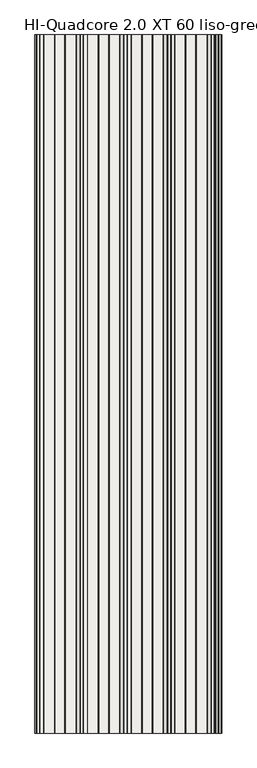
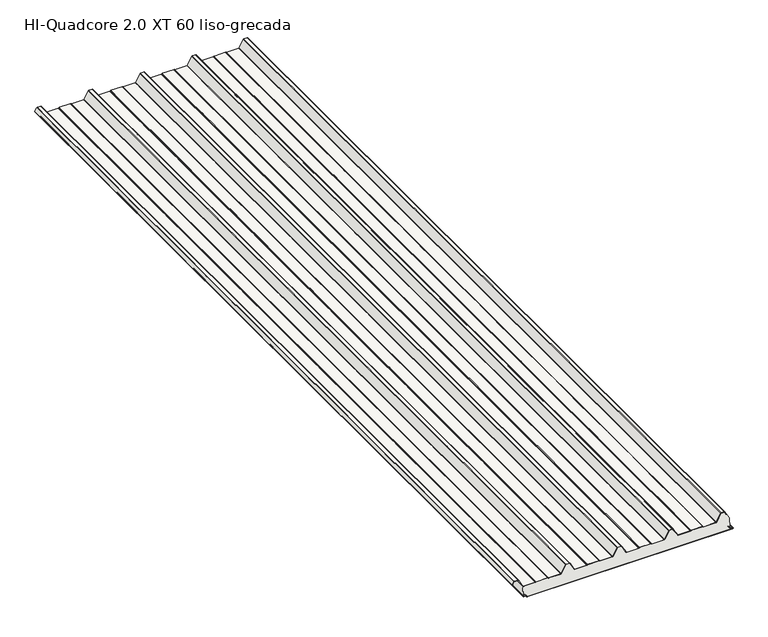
"""IFC4 building model written with IfcOpenShell, lengths in millimetres: slab geometry, Panel_HI_QuadCore 2.0 XT-XT DUAL_liso-grecada : HI-Quadcore 2.0 XT 60 liso-grecada."""

from ifc_helpers import new_model, si_unit, point, frame, frame_2d, origin, place, context, project, spatial, polyline, circle_curve, trimmed, segment, composite_curve, outline, extrude, source, transform, mapped, element, save
from ifc_brep_helpers import plane_surface, cylinder_surface, revolved_surface, advanced_brep


def hi_quadcore_2_0_xt_60_liso_grecada_b670beb6(model_context):
    return source(origin(), model_context, "Body", "SolidModel", [
        advanced_brep(
        [(-463.5686109, 0.0, 13.3795578), (-464.1543582, 0.0, 11.9654043), (-464.1543963, 0.0, 8.2995811), (-462.3003213, 0.0, 6.328543), (-451.8922768, 0.0, 5.5663871), (-450.0967368, 0.0, 3.5769209), (-450.0966924, 0.0, 1.9756011), (-448.096637, 0.0, -0.0243435), (547.9162803, 0.0, 0.003269), (549.9046779, 0.0, 2.0032908), (549.904653, 0.0, 2.9012893), (548.0077486, 0.0, 4.8985749), (536.1928118, 0.0, 5.7933732), (534.3438482, 0.0, 7.7876066), (534.3437386, 0.0, 11.7402379), (533.757913, 0.0, 13.1544352), (532.3436602, 0.0, 14.5686095), (531.7779748, 0.0, 14.0029241), (533.1922433, 0.0, 12.5887341), (533.5437386, 0.0, 11.7402157), (533.5438482, 0.0, 7.7875844), (536.1323972, 0.0, 4.9956577), (547.958132, 0.0, 4.1000416), (549.104653, 0.0, 2.9012672), (549.1046779, 0.0, 2.0032686), (547.9136554, 0.0, 0.8032689), (-448.0966592, 0.0, 0.7756565), (-449.2966924, 0.0, 1.9756233), (-449.2967368, 0.0, 3.5769431), (-451.8231384, 0.0, 6.3634663), (-462.2418956, 0.0, 7.1264067), (-463.3542572, 0.0, 8.3231689), (-463.3543582, 0.0, 11.965396), (-463.0029098, 0.0, 12.8138881), (-460.8967817, 0.0, 14.920133), (-461.4624671, 0.0, 15.4858184), (-463.5686109, 4000.0, 13.3795578), (-461.4624671, 4000.0, 15.4858184), (-460.8967817, 4000.0, 14.920133), (-463.0029098, 4000.0, 12.8138881), (-463.3543582, 4000.0, 11.965396), (-463.3543963, 4000.0, 8.2995728), (-462.2418956, 4000.0, 7.1264067), (-451.8231384, 4000.0, 6.3634663), (-449.2967368, 4000.0, 3.5769431), (-449.2966924, 4000.0, 1.9756233), (-448.0966592, 4000.0, 0.7756565), (547.9136554, 4000.0, 0.8032689), (549.1046779, 4000.0, 2.0032686), (549.104653, 4000.0, 2.9012672), (547.958132, 4000.0, 4.1000416), (536.1323972, 4000.0, 4.9956577), (533.5438482, 4000.0, 7.7875844), (533.5437386, 4000.0, 11.7402157), (533.1922433, 4000.0, 12.5887341), (531.7779748, 4000.0, 14.0029241), (532.3436602, 4000.0, 14.5686095), (533.757913, 4000.0, 13.1544352), (534.3437386, 4000.0, 11.7402379), (534.3438482, 4000.0, 7.7876066), (536.1928118, 4000.0, 5.7933732), (548.0077486, 4000.0, 4.8985749), (549.904653, 4000.0, 2.9012893), (549.9046779, 4000.0, 2.0032908), (547.9162803, 4000.0, 0.003269), (-448.096637, 4000.0, -0.0243435), (-450.0966924, 4000.0, 1.9756011), (-450.0967368, 4000.0, 3.5769209), (-451.8922768, 4000.0, 5.5663871), (-462.3003213, 4000.0, 6.328543), (-464.1542572, 4000.0, 8.3231467), (-464.1543582, 4000.0, 11.9654043)],
        [
            (0, 1, circle_curve(frame((-462.1543582, 0.0, 11.9653834), z_axis=(0.0, -1.0, 0.0), x_axis=(1.0, 0.0, 0.0)), 2.0)),
            (1, 2),
            (2, 3, circle_curve(frame((-462.1542572, 0.0, 8.3232022), z_axis=(0.0, -1.0, 0.0), x_axis=(1.0, 0.0, 0.0)), 2.0)),
            (3, 4),
            (4, 5, circle_curve(frame((-452.0967368, 0.0, 3.5768655), z_axis=(0.0, 1.0, 0.0), x_axis=(1.0, 0.0, 0.0)), 2.0)),
            (5, 6),
            (6, 7, circle_curve(frame((-448.0966924, 0.0, 1.9756565), z_axis=(0.0, -1.0, 0.0), x_axis=(1.0, 0.0, 0.0)), 2.0)),
            (7, 8),
            (8, 9, circle_curve(frame((547.9046779, 0.0, 2.0032353), z_axis=(0.0, -1.0, 0.0), x_axis=(1.0, 0.0, 0.0)), 2.0)),
            (9, 10),
            (10, 11, circle_curve(frame((547.904653, 0.0, 2.9012339), z_axis=(0.0, -1.0, 0.0), x_axis=(1.0, 0.0, 0.0)), 2.0)),
            (11, 12),
            (12, 13, circle_curve(frame((536.3438482, 0.0, 7.7876621), z_axis=(0.0, 1.0, 0.0), x_axis=(1.0, 0.0, 0.0)), 2.0)),
            (13, 14),
            (14, 15, circle_curve(frame((532.3437386, 0.0, 11.7401824), z_axis=(0.0, -1.0, 0.0), x_axis=(1.0, 0.0, 0.0)), 2.0)),
            (15, 16),
            (16, 17),
            (17, 18),
            (18, 19, circle_curve(frame((532.3437386, 0.0, 11.7401824), z_axis=(0.0, 1.0, 0.0), x_axis=(1.0, 0.0, 0.0)), 1.2)),
            (19, 20),
            (20, 21, circle_curve(frame((536.3438482, 0.0, 7.7876621), z_axis=(0.0, -1.0, 0.0), x_axis=(1.0, 0.0, 0.0)), 2.8)),
            (21, 22),
            (22, 23, circle_curve(frame((547.904653, 0.0, 2.9012339), z_axis=(0.0, 1.0, 0.0), x_axis=(1.0, 0.0, 0.0)), 1.2)),
            (23, 24),
            (24, 25, circle_curve(frame((547.9046779, 0.0, 2.0032353), z_axis=(0.0, 1.0, 0.0), x_axis=(1.0, 0.0, 0.0)), 1.2)),
            (25, 26),
            (26, 27, circle_curve(frame((-448.0966924, 0.0, 1.9756565), z_axis=(0.0, 1.0, 0.0), x_axis=(1.0, 0.0, 0.0)), 1.2)),
            (27, 28),
            (28, 29, circle_curve(frame((-452.0967368, 0.0, 3.5768655), z_axis=(0.0, -1.0, 0.0), x_axis=(1.0, 0.0, 0.0)), 2.8)),
            (29, 30),
            (30, 31, circle_curve(frame((-462.1542572, 0.0, 8.3232022), z_axis=(0.0, 1.0, 0.0), x_axis=(1.0, 0.0, 0.0)), 1.2)),
            (31, 32),
            (32, 33, circle_curve(frame((-462.1543582, 0.0, 11.9653834), z_axis=(0.0, 1.0, 0.0), x_axis=(1.0, 0.0, 0.0)), 1.2)),
            (33, 34),
            (34, 35),
            (35, 0),
            (36, 37),
            (37, 38),
            (38, 39),
            (39, 40, circle_curve(frame((-462.1543582, 4000.0, 11.9653834), z_axis=(0.0, -1.0, 0.0), x_axis=(1.0, 0.0, 0.0)), 1.2)),
            (40, 41),
            (41, 42, circle_curve(frame((-462.1542572, 4000.0, 8.3232022), z_axis=(0.0, -1.0, 0.0), x_axis=(1.0, 0.0, 0.0)), 1.2)),
            (42, 43),
            (43, 44, circle_curve(frame((-452.0967368, 4000.0, 3.5768655), z_axis=(0.0, 1.0, 0.0), x_axis=(1.0, 0.0, 0.0)), 2.8)),
            (44, 45),
            (45, 46, circle_curve(frame((-448.0966924, 4000.0, 1.9756565), z_axis=(0.0, -1.0, 0.0), x_axis=(1.0, 0.0, 0.0)), 1.2)),
            (46, 47),
            (47, 48, circle_curve(frame((547.9046779, 4000.0, 2.0032353), z_axis=(0.0, -1.0, 0.0), x_axis=(1.0, 0.0, 0.0)), 1.2)),
            (48, 49),
            (49, 50, circle_curve(frame((547.904653, 4000.0, 2.9012339), z_axis=(0.0, -1.0, 0.0), x_axis=(1.0, 0.0, 0.0)), 1.2)),
            (50, 51),
            (51, 52, circle_curve(frame((536.3438482, 4000.0, 7.7876621), z_axis=(0.0, 1.0, 0.0), x_axis=(1.0, 0.0, 0.0)), 2.8)),
            (52, 53),
            (53, 54, circle_curve(frame((532.3437386, 4000.0, 11.7401824), z_axis=(0.0, -1.0, 0.0), x_axis=(1.0, 0.0, 0.0)), 1.2)),
            (54, 55),
            (55, 56),
            (56, 57),
            (57, 58, circle_curve(frame((532.3437386, 4000.0, 11.7401824), z_axis=(0.0, 1.0, 0.0), x_axis=(1.0, 0.0, 0.0)), 2.0)),
            (58, 59),
            (59, 60, circle_curve(frame((536.3438482, 4000.0, 7.7876621), z_axis=(0.0, -1.0, 0.0), x_axis=(1.0, 0.0, 0.0)), 2.0)),
            (60, 61),
            (61, 62, circle_curve(frame((547.904653, 4000.0, 2.9012339), z_axis=(0.0, 1.0, 0.0), x_axis=(1.0, 0.0, 0.0)), 2.0)),
            (62, 63),
            (63, 64, circle_curve(frame((547.9046779, 4000.0, 2.0032353), z_axis=(0.0, 1.0, 0.0), x_axis=(1.0, 0.0, 0.0)), 2.0)),
            (64, 65),
            (65, 66, circle_curve(frame((-448.0966924, 4000.0, 1.9756565), z_axis=(0.0, 1.0, 0.0), x_axis=(1.0, 0.0, 0.0)), 2.0)),
            (66, 67),
            (67, 68, circle_curve(frame((-452.0967368, 4000.0, 3.5768655), z_axis=(0.0, -1.0, 0.0), x_axis=(1.0, 0.0, 0.0)), 2.0)),
            (68, 69),
            (69, 70, circle_curve(frame((-462.1542572, 4000.0, 8.3232022), z_axis=(0.0, 1.0, 0.0), x_axis=(1.0, 0.0, 0.0)), 2.0)),
            (70, 71),
            (71, 36, circle_curve(frame((-462.1543582, 4000.0, 11.9653834), z_axis=(0.0, 1.0, 0.0), x_axis=(1.0, 0.0, 0.0)), 2.0)),
            (0, 36),
            (71, 1),
            (70, 2),
            (69, 3),
            (68, 4),
            (67, 5),
            (66, 6),
            (65, 7),
            (64, 8),
            (63, 9),
            (62, 10),
            (61, 11),
            (60, 12),
            (59, 13),
            (58, 14),
            (57, 15),
            (56, 16),
            (55, 17),
            (54, 18),
            (53, 19),
            (52, 20),
            (51, 21),
            (50, 22),
            (49, 23),
            (48, 24),
            (47, 25),
            (46, 26),
            (45, 27),
            (44, 28),
            (43, 29),
            (42, 30),
            (41, 31),
            (40, 32),
            (39, 33),
            (38, 34),
            (37, 35),
        ],
        [
            plane_surface(frame((-460.1543582, 0.0, 11.9653834), z_axis=(0.0, -1.0, 0.0), x_axis=(0.0, 0.0, 1.0))),
            plane_surface(frame((-460.1543582, 4000.0, 11.9653834), z_axis=(0.0, 1.0, 0.0), x_axis=(0.0, 0.0, -1.0))),
            cylinder_surface(frame((-462.1543582, 4000.0, 11.9653834), z_axis=(0.0, -1.0, 0.0), x_axis=(1.0, 0.0, 0.0)), 2.0),
            plane_surface(frame((-464.1543582, 0.0, 11.9654043), z_axis=(-0.9999999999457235, 0.0, 1.041887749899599e-05), x_axis=(0.0, 1.0, 0.0))),
            cylinder_surface(frame((-462.1542572, 4000.0, 8.3232022), z_axis=(0.0, -1.0, 0.0), x_axis=(1.0, 0.0, 0.0)), 2.0),
            plane_surface(frame((-462.3003213, 0.0, 6.328543), z_axis=(-0.07303203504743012, 0.0, -0.9973295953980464), x_axis=(0.0, 1.0, 0.0))),
            revolved_surface(polyline([(-450.0967368, 4000.0, 3.5768655), (-450.0967368, 0.0, 3.5768655)]), (-452.0967368, 4000.0, 3.5768655), (0.0, 1.0, 0.0)),
            plane_surface(frame((-450.0967368, 0.0, 3.5769209), z_axis=(-0.9999999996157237, 0.0, -2.7722781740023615e-05), x_axis=(0.0, 1.0, 0.0))),
            cylinder_surface(frame((-448.0966924, 4000.0, 1.9756565), z_axis=(0.0, -1.0, 0.0), x_axis=(1.0, 0.0, 0.0)), 2.0),
            plane_surface(frame((-448.096637, 0.0, -0.0243435), z_axis=(2.772298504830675e-05, 0.0, -0.9999999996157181), x_axis=(0.0, 1.0, 0.0))),
            cylinder_surface(frame((547.9046779, 4000.0, 2.0032353), z_axis=(0.0, -1.0, 0.0), x_axis=(1.0, 0.0, 0.0)), 2.0),
            plane_surface(frame((549.9046779, 0.0, 2.0032908), z_axis=(0.9999999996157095, 0.0, 2.7723295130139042e-05), x_axis=(0.0, 1.0, 0.0))),
            cylinder_surface(frame((547.904653, 4000.0, 2.9012339), z_axis=(0.0, -1.0, 0.0), x_axis=(1.0, 0.0, 0.0)), 2.0),
            plane_surface(frame((548.0077486, 0.0, 4.8985749), z_axis=(0.07551822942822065, 0.0, 0.9971444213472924), x_axis=(0.0, 1.0, 0.0))),
            revolved_surface(polyline([(538.3438482, 4000.0, 7.7876621), (538.3438482, 0.0, 7.7876621)]), (536.3438482, 4000.0, 7.7876621), (0.0, 1.0, 0.0)),
            plane_surface(frame((534.3438482, 0.0, 7.7876066), z_axis=(0.9999999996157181, 0.0, 2.7722984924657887e-05), x_axis=(0.0, 1.0, 0.0))),
            cylinder_surface(frame((532.3437386, 4000.0, 11.7401824), z_axis=(0.0, -1.0, 0.0), x_axis=(1.0, 0.0, 0.0)), 2.0),
            plane_surface(frame((533.757913, 0.0, 13.1544352), z_axis=(0.7070871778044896, 0.0, 0.7071263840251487), x_axis=(0.0, 1.0, 0.0))),
            plane_surface(frame((532.3436602, 0.0, 14.5686095), z_axis=(-0.7071067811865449, 0.0, 0.7071067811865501), x_axis=(0.0, 1.0, 0.0))),
            plane_surface(frame((531.7779748, 0.0, 14.0029241), z_axis=(-0.7070871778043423, 0.0, -0.707126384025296), x_axis=(0.0, 1.0, 0.0))),
            revolved_surface(polyline([(533.5437386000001, 4000.0, 11.7401824), (533.5437386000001, 0.0, 11.7401824)]), (532.3437386, 4000.0, 11.7401824), (0.0, 1.0, 0.0)),
            plane_surface(frame((533.5437386, 0.0, 11.7402157), z_axis=(-0.9999999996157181, 0.0, -2.7722985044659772e-05), x_axis=(0.0, 1.0, 0.0))),
            cylinder_surface(frame((536.3438482, 4000.0, 7.7876621), z_axis=(0.0, -1.0, 0.0), x_axis=(1.0, 0.0, 0.0)), 2.8),
            plane_surface(frame((536.1323972, 0.0, 4.9956577), z_axis=(-0.07551822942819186, 0.0, -0.9971444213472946), x_axis=(0.0, 1.0, 0.0))),
            revolved_surface(polyline([(549.1046530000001, 4000.0, 2.9012339), (549.1046530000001, 0.0, 2.9012339)]), (547.904653, 4000.0, 2.9012339), (0.0, 1.0, 0.0)),
            plane_surface(frame((549.104653, 0.0, 2.9012672), z_axis=(-0.9999999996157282, 0.0, -2.7722622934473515e-05), x_axis=(0.0, 1.0, 0.0))),
            revolved_surface(polyline([(549.1046779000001, 4000.0, 2.0032353), (549.1046779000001, 0.0, 2.0032353)]), (547.9046779, 4000.0, 2.0032353), (0.0, 1.0, 0.0)),
            plane_surface(frame((547.9136554, 0.0, 0.8032689), z_axis=(-2.7722985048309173e-05, 0.0, 0.9999999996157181), x_axis=(0.0, 1.0, 0.0))),
            revolved_surface(polyline([(-446.8966924, 4000.0, 1.9756565), (-446.8966924, 0.0, 1.9756565)]), (-448.0966924, 4000.0, 1.9756565), (0.0, 1.0, 0.0)),
            plane_surface(frame((-449.2966924, 0.0, 1.9756233), z_axis=(0.9999999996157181, 0.0, 2.7722983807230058e-05), x_axis=(0.0, 1.0, 0.0))),
            cylinder_surface(frame((-452.0967368, 4000.0, 3.5768655), z_axis=(0.0, -1.0, 0.0), x_axis=(1.0, 0.0, 0.0)), 2.8),
            plane_surface(frame((-451.8231384, 0.0, 6.3634663), z_axis=(0.0730320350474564, 0.0, 0.9973295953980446), x_axis=(0.0, 1.0, 0.0))),
            revolved_surface(polyline([(-460.95425720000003, 4000.0, 8.3232022), (-460.95425720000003, 0.0, 8.3232022)]), (-462.1542572, 4000.0, 8.3232022), (0.0, 1.0, 0.0)),
            plane_surface(frame((-463.3543963, 0.0, 8.2995728), z_axis=(0.9999999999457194, 0.0, -1.0419274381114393e-05), x_axis=(0.0, 1.0, 0.0))),
            revolved_surface(polyline([(-460.9543582, 4000.0, 11.9653834), (-460.9543582, 0.0, 11.9653834)]), (-462.1543582, 4000.0, 11.9653834), (0.0, 1.0, 0.0)),
            plane_surface(frame((-463.0029098, 0.0, 12.8138881), z_axis=(0.7071263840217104, 0.0, -0.7070871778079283), x_axis=(0.0, 1.0, 0.0))),
            plane_surface(frame((-460.8967817, 0.0, 14.920133), z_axis=(0.7071067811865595, 0.0, 0.7071067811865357), x_axis=(0.0, 1.0, 0.0))),
            plane_surface(frame((-461.4624671, 0.0, 15.4858184), z_axis=(-0.7071263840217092, 0.0, 0.7070871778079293), x_axis=(0.0, 1.0, 0.0))),
        ],
        [
            (0, [[1, 2, 3, 4, 5, 6, 7, 8, 9, 10, 11, 12, 13, 14, 15, 16, 17, 18, 19, 20, 21, 22, 23, 24, 25, 26, 27, 28, 29, 30, 31, 32, 33, 34, 35, 36]]),
            (1, [[37, 38, 39, 40, 41, 42, 43, 44, 45, 46, 47, 48, 49, 50, 51, 52, 53, 54, 55, 56, 57, 58, 59, 60, 61, 62, 63, 64, 65, 66, 67, 68, 69, 70, 71, 72]]),
            (2, [[-1, 73, -72, 74]]),
            (3, [[-2, -74, -71, 75]]),
            (4, [[-3, -75, -70, 76]]),
            (5, [[-4, -76, -69, 77]]),
            (6, [[-5, -77, -68, 78]]),
            (7, [[-6, -78, -67, 79]]),
            (8, [[-7, -79, -66, 80]]),
            (9, [[-8, -80, -65, 81]]),
            (10, [[-9, -81, -64, 82]]),
            (11, [[-10, -82, -63, 83]]),
            (12, [[-11, -83, -62, 84]]),
            (13, [[-12, -84, -61, 85]]),
            (14, [[-13, -85, -60, 86]]),
            (15, [[-14, -86, -59, 87]]),
            (16, [[-15, -87, -58, 88]]),
            (17, [[-16, -88, -57, 89]]),
            (18, [[-17, -89, -56, 90]]),
            (19, [[-18, -90, -55, 91]]),
            (20, [[-19, -91, -54, 92]]),
            (21, [[-20, -92, -53, 93]]),
            (22, [[-21, -93, -52, 94]]),
            (23, [[-22, -94, -51, 95]]),
            (24, [[-23, -95, -50, 96]]),
            (25, [[-24, -96, -49, 97]]),
            (26, [[-25, -97, -48, 98]]),
            (27, [[-26, -98, -47, 99]]),
            (28, [[-27, -99, -46, 100]]),
            (29, [[-28, -100, -45, 101]]),
            (30, [[-29, -101, -44, 102]]),
            (31, [[-30, -102, -43, 103]]),
            (32, [[-31, -103, -42, 104]]),
            (33, [[-32, -104, -41, 105]]),
            (34, [[-33, -105, -40, 106]]),
            (35, [[-34, -106, -39, 107]]),
            (36, [[-35, -107, -38, 108]]),
            (37, [[-36, -108, -37, -73]]),
        ],
    ),
        extrude(outline(composite_curve([segment(polyline([(98.1649405, -511.4858571), (83.6579587, -519.6460344)]), True, "CONTINUOUS"), segment(trimmed(circle_curve(frame_2d((83.0451321, -518.556565)), 1.25), [point((83.6579587, -519.6460344))], [point((82.689225, -517.3583037))], False, "CARTESIAN"), True, "CONTINUOUS"), segment(polyline([(82.689225, -517.3583037), (85.7359115, -516.562859), (85.9380053, -517.336912), (82.9074492, -518.1281453)]), True, "CONTINUOUS"), segment(trimmed(circle_curve(frame_2d((83.0451321, -518.556565)), 0.45), [point((82.9074492, -518.1281453))], [point((83.2657497, -518.948774))], True, "CARTESIAN"), True, "CONTINUOUS"), segment(polyline([(83.2657497, -518.948774), (97.7727315, -510.7885967)]), True, "CONTINUOUS"), segment(trimmed(circle_curve(frame_2d((96.4, -508.3481852)), 2.8), [point((97.7727315, -510.7885967))], [point((99.2, -508.3481852))], True, "CARTESIAN"), True, "CONTINUOUS"), segment(polyline([(99.2, -508.3481852), (99.2, -491.0688883)]), True, "CONTINUOUS"), segment(trimmed(circle_curve(frame_2d((96.4, -491.0688883)), 2.8), [point((99.2, -491.0688883))], [point((97.5457267, -488.5140281))], True, "CARTESIAN"), True, "CONTINUOUS"), segment(polyline([(97.5457267, -488.5140281), (61.2048889, -468.6947225)]), True, "CONTINUOUS"), segment(trimmed(circle_curve(frame_2d((63.0, -465.3454575)), 3.8), [point((61.2048889, -468.6947225))], [point((59.2, -465.3454575))], False, "CARTESIAN"), True, "CONTINUOUS"), segment(polyline([(59.2, -465.3454575), (59.2, -407.5510443)]), True, "CONTINUOUS"), segment(trimmed(circle_curve(frame_2d((63.0, -407.5510443)), 3.8), [point((59.2, -407.5510443))], [point((59.6973596, -405.671532))], False, "CARTESIAN"), True, "CONTINUOUS"), segment(polyline([(59.6973596, -405.671532), (60.912055, -403.5370944)]), True, "CONTINUOUS"), segment(trimmed(circle_curve(frame_2d((59.0, -402.4489557)), 2.2), [point((60.912055, -403.5370944))], [point((61.2, -402.4489557))], True, "CARTESIAN"), True, "CONTINUOUS"), segment(polyline([(61.2, -402.4489557), (61.2, -347.5510443)]), True, "CONTINUOUS"), segment(trimmed(circle_curve(frame_2d((59.0, -347.5510443)), 2.2), [point((61.2, -347.5510443))], [point((60.912055, -346.4629056))], True, "CARTESIAN"), True, "CONTINUOUS"), segment(polyline([(60.912055, -346.4629056), (59.6973596, -344.328468)]), True, "CONTINUOUS"), segment(trimmed(circle_curve(frame_2d((63.0, -342.4489557)), 3.8), [point((59.6973596, -344.328468))], [point((59.2, -342.4489557))], False, "CARTESIAN"), True, "CONTINUOUS"), segment(polyline([(59.2, -342.4489557), (59.2, -284.2545425)]), True, "CONTINUOUS"), segment(trimmed(circle_curve(frame_2d((63.0, -284.2545425)), 3.8), [point((59.2, -284.2545425))], [point((61.1370073, -280.9425554))], False, "CARTESIAN"), True, "CONTINUOUS"), segment(polyline([(61.1370073, -280.9425554), (98.0785747, -260.1629237)]), True, "CONTINUOUS"), segment(trimmed(circle_curve(frame_2d((97.0, -258.2454575)), 2.2), [point((98.0785747, -260.1629237))], [point((99.2, -258.2454575))], True, "CARTESIAN"), True, "CONTINUOUS"), segment(polyline([(99.2, -258.2454575), (99.2, -241.7545425)]), True, "CONTINUOUS"), segment(trimmed(circle_curve(frame_2d((97.0, -241.7545425)), 2.2), [point((99.2, -241.7545425))], [point((98.0785747, -239.8370763))], True, "CARTESIAN"), True, "CONTINUOUS"), segment(polyline([(98.0785747, -239.8370763), (61.1370073, -219.0574446)]), True, "CONTINUOUS"), segment(trimmed(circle_curve(frame_2d((63.0, -215.7454575)), 3.8), [point((61.1370073, -219.0574446))], [point((59.2, -215.7454575))], False, "CARTESIAN"), True, "CONTINUOUS"), segment(polyline([(59.2, -215.7454575), (59.2, -157.5510443)]), True, "CONTINUOUS"), segment(trimmed(circle_curve(frame_2d((63.0, -157.5510443)), 3.8), [point((59.2, -157.5510443))], [point((59.6973596, -155.671532))], False, "CARTESIAN"), True, "CONTINUOUS"), segment(polyline([(59.6973596, -155.671532), (60.912055, -153.5370944)]), True, "CONTINUOUS"), segment(trimmed(circle_curve(frame_2d((59.0, -152.4489557)), 2.2), [point((60.912055, -153.5370944))], [point((61.2, -152.4489557))], True, "CARTESIAN"), True, "CONTINUOUS"), segment(polyline([(61.2, -152.4489557), (61.2, -97.5510443)]), True, "CONTINUOUS"), segment(trimmed(circle_curve(frame_2d((59.0, -97.5510443)), 2.2), [point((61.2, -97.5510443))], [point((60.912055, -96.4629056))], True, "CARTESIAN"), True, "CONTINUOUS"), segment(polyline([(60.912055, -96.4629056), (59.6973596, -94.328468)]), True, "CONTINUOUS"), segment(trimmed(circle_curve(frame_2d((63.0, -92.4489557)), 3.8), [point((59.6973596, -94.328468))], [point((59.2, -92.4489557))], False, "CARTESIAN"), True, "CONTINUOUS"), segment(polyline([(59.2, -92.4489557), (59.2, -34.2545425)]), True, "CONTINUOUS"), segment(trimmed(circle_curve(frame_2d((63.0, -34.2545425)), 3.8), [point((59.2, -34.2545425))], [point((61.1370073, -30.9425554))], False, "CARTESIAN"), True, "CONTINUOUS"), segment(polyline([(61.1370073, -30.9425554), (98.0785747, -10.1629237)]), True, "CONTINUOUS"), segment(trimmed(circle_curve(frame_2d((97.0, -8.2454575)), 2.2), [point((98.0785747, -10.1629237))], [point((99.2, -8.2454575))], True, "CARTESIAN"), True, "CONTINUOUS"), segment(polyline([(99.2, -8.2454575), (99.2, 8.2454575)]), True, "CONTINUOUS"), segment(trimmed(circle_curve(frame_2d((97.0, 8.2454575)), 2.2), [point((99.2, 8.2454575))], [point((98.0785747, 10.1629237))], True, "CARTESIAN"), True, "CONTINUOUS"), segment(polyline([(98.0785747, 10.1629237), (61.1370073, 30.9425554)]), True, "CONTINUOUS"), segment(trimmed(circle_curve(frame_2d((63.0, 34.2545425)), 3.8), [point((61.1370073, 30.9425554))], [point((59.2, 34.2545425))], False, "CARTESIAN"), True, "CONTINUOUS"), segment(polyline([(59.2, 34.2545425), (59.2, 92.4489557)]), True, "CONTINUOUS"), segment(trimmed(circle_curve(frame_2d((63.0, 92.4489557)), 3.8), [point((59.2, 92.4489557))], [point((59.6973596, 94.328468))], False, "CARTESIAN"), True, "CONTINUOUS"), segment(polyline([(59.6973596, 94.328468), (60.912055, 96.4629056)]), True, "CONTINUOUS"), segment(trimmed(circle_curve(frame_2d((59.0, 97.5510443)), 2.2), [point((60.912055, 96.4629056))], [point((61.2, 97.5510443))], True, "CARTESIAN"), True, "CONTINUOUS"), segment(polyline([(61.2, 97.5510443), (61.2, 152.4489557)]), True, "CONTINUOUS"), segment(trimmed(circle_curve(frame_2d((59.0, 152.4489557)), 2.2), [point((61.2, 152.4489557))], [point((60.912055, 153.5370944))], True, "CARTESIAN"), True, "CONTINUOUS"), segment(polyline([(60.912055, 153.5370944), (59.6973596, 155.671532)]), True, "CONTINUOUS"), segment(trimmed(circle_curve(frame_2d((63.0, 157.5510443)), 3.8), [point((59.6973596, 155.671532))], [point((59.2, 157.5510443))], False, "CARTESIAN"), True, "CONTINUOUS"), segment(polyline([(59.2, 157.5510443), (59.2, 215.7454575)]), True, "CONTINUOUS"), segment(trimmed(circle_curve(frame_2d((63.0, 215.7454575)), 3.8), [point((59.2, 215.7454575))], [point((61.1370073, 219.0574446))], False, "CARTESIAN"), True, "CONTINUOUS"), segment(polyline([(61.1370073, 219.0574446), (98.0785747, 239.8370763)]), True, "CONTINUOUS"), segment(trimmed(circle_curve(frame_2d((97.0, 241.7545425)), 2.2), [point((98.0785747, 239.8370763))], [point((99.2, 241.7545425))], True, "CARTESIAN"), True, "CONTINUOUS"), segment(polyline([(99.2, 241.7545425), (99.2, 258.2454575)]), True, "CONTINUOUS"), segment(trimmed(circle_curve(frame_2d((97.0, 258.2454575)), 2.2), [point((99.2, 258.2454575))], [point((98.0785747, 260.1629237))], True, "CARTESIAN"), True, "CONTINUOUS"), segment(polyline([(98.0785747, 260.1629237), (61.1370073, 280.9425554)]), True, "CONTINUOUS"), segment(trimmed(circle_curve(frame_2d((63.0, 284.2545425)), 3.8), [point((61.1370073, 280.9425554))], [point((59.2, 284.2545425))], False, "CARTESIAN"), True, "CONTINUOUS"), segment(polyline([(59.2, 284.2545425), (59.2, 342.4489557)]), True, "CONTINUOUS"), segment(trimmed(circle_curve(frame_2d((63.0, 342.4489557)), 3.8), [point((59.2, 342.4489557))], [point((59.6973596, 344.328468))], False, "CARTESIAN"), True, "CONTINUOUS"), segment(polyline([(59.6973596, 344.328468), (60.912055, 346.4629056)]), True, "CONTINUOUS"), segment(trimmed(circle_curve(frame_2d((59.0, 347.5510443)), 2.2), [point((60.912055, 346.4629056))], [point((61.2, 347.5510443))], True, "CARTESIAN"), True, "CONTINUOUS"), segment(polyline([(61.2, 347.5510443), (61.2, 402.4489557)]), True, "CONTINUOUS"), segment(trimmed(circle_curve(frame_2d((59.0, 402.4489557)), 2.2), [point((61.2, 402.4489557))], [point((60.912055, 403.5370944))], True, "CARTESIAN"), True, "CONTINUOUS"), segment(polyline([(60.912055, 403.5370944), (59.6973596, 405.671532)]), True, "CONTINUOUS"), segment(trimmed(circle_curve(frame_2d((63.0, 407.5510443)), 3.8), [point((59.6973596, 405.671532))], [point((59.2, 407.5510443))], False, "CARTESIAN"), True, "CONTINUOUS"), segment(polyline([(59.2, 407.5510443), (59.2, 466.4208923)]), True, "CONTINUOUS"), segment(trimmed(circle_curve(frame_2d((63.0, 466.4208923)), 3.8), [point((59.2, 466.4208923))], [point((61.1583504, 469.7447946))], False, "CARTESIAN"), True, "CONTINUOUS"), segment(polyline([(61.1583504, 469.7447946), (98.0662182, 490.1940602)]), True, "CONTINUOUS"), segment(trimmed(circle_curve(frame_2d((97.0, 492.1184247)), 2.2), [point((98.0662182, 490.1940602))], [point((99.2, 492.1184247))], True, "CARTESIAN"), True, "CONTINUOUS"), segment(polyline([(99.2, 492.1184247), (99.2, 507.4945491)]), True, "CONTINUOUS"), segment(trimmed(circle_curve(frame_2d((97.0, 507.4945491)), 2.2), [point((99.2, 507.4945491))], [point((98.0785747, 509.4120152))], True, "CARTESIAN"), True, "CONTINUOUS"), segment(polyline([(98.0785747, 509.4120152), (87.5275176, 515.3469849)]), True, "CONTINUOUS"), segment(trimmed(circle_curve(frame_2d((86.9392041, 514.3010942)), 1.2), [point((87.5275176, 515.3469849))], [point((86.3392623, 515.3403583))], True, "CARTESIAN"), True, "CONTINUOUS"), segment(polyline([(86.3392623, 515.3403583), (84.7281681, 514.4103128), (84.3282068, 515.1031555), (85.939301, 516.033201)]), True, "CONTINUOUS"), segment(trimmed(circle_curve(frame_2d((86.9392041, 514.3010942)), 2.0), [point((85.939301, 516.033201))], [point((87.9197266, 516.0442453))], False, "CARTESIAN"), True, "CONTINUOUS"), segment(polyline([(87.9197266, 516.0442453), (98.4707837, 510.1092757)]), True, "CONTINUOUS"), segment(trimmed(circle_curve(frame_2d((97.0, 507.4945491)), 3.0), [point((98.4707837, 510.1092757))], [point((100.0, 507.4945491))], False, "CARTESIAN"), True, "CONTINUOUS"), segment(polyline([(100.0, 507.4945491), (100.0, 492.1184247)]), True, "CONTINUOUS"), segment(trimmed(circle_curve(frame_2d((97.0, 492.1184247)), 3.0), [point((100.0, 492.1184247))], [point((98.4539339, 489.4942913))], False, "CARTESIAN"), True, "CONTINUOUS"), segment(polyline([(98.4539339, 489.4942913), (61.5460661, 469.0450257)]), True, "CONTINUOUS"), segment(trimmed(circle_curve(frame_2d((63.0, 466.4208923)), 3.0), [point((61.5460661, 469.0450257))], [point((60.0, 466.4208923))], True, "CARTESIAN"), True, "CONTINUOUS"), segment(polyline([(60.0, 466.4208923), (60.0, 407.5510443)]), True, "CONTINUOUS"), segment(trimmed(circle_curve(frame_2d((63.0, 407.5510443)), 3.0), [point((60.0, 407.5510443))], [point((60.3926523, 406.0672188))], True, "CARTESIAN"), True, "CONTINUOUS"), segment(polyline([(60.3926523, 406.0672188), (61.6073477, 403.9327812)]), True, "CONTINUOUS"), segment(trimmed(circle_curve(frame_2d((59.0, 402.4489557)), 3.0), [point((61.6073477, 403.9327812))], [point((62.0, 402.4489557))], False, "CARTESIAN"), True, "CONTINUOUS"), segment(polyline([(62.0, 402.4489557), (62.0, 347.5510443)]), True, "CONTINUOUS"), segment(trimmed(circle_curve(frame_2d((59.0, 347.5510443)), 3.0), [point((62.0, 347.5510443))], [point((61.6073477, 346.0672188))], False, "CARTESIAN"), True, "CONTINUOUS"), segment(polyline([(61.6073477, 346.0672188), (60.3926523, 343.9327812)]), True, "CONTINUOUS"), segment(trimmed(circle_curve(frame_2d((63.0, 342.4489557)), 3.0), [point((60.3926523, 343.9327812))], [point((60.0, 342.4489557))], True, "CARTESIAN"), True, "CONTINUOUS"), segment(polyline([(60.0, 342.4489557), (60.0, 284.2545425)]), True, "CONTINUOUS"), segment(trimmed(circle_curve(frame_2d((63.0, 284.2545425)), 3.0), [point((60.0, 284.2545425))], [point((61.5292163, 281.6398158))], True, "CARTESIAN"), True, "CONTINUOUS"), segment(polyline([(61.5292163, 281.6398158), (98.4707837, 260.8601842)]), True, "CONTINUOUS"), segment(trimmed(circle_curve(frame_2d((97.0, 258.2454575)), 3.0), [point((98.4707837, 260.8601842))], [point((100.0, 258.2454575))], False, "CARTESIAN"), True, "CONTINUOUS"), segment(polyline([(100.0, 258.2454575), (100.0, 241.7545425)]), True, "CONTINUOUS"), segment(trimmed(circle_curve(frame_2d((97.0, 241.7545425)), 3.0), [point((100.0, 241.7545425))], [point((98.4707837, 239.1398158))], False, "CARTESIAN"), True, "CONTINUOUS"), segment(polyline([(98.4707837, 239.1398158), (61.5292163, 218.3601842)]), True, "CONTINUOUS"), segment(trimmed(circle_curve(frame_2d((63.0, 215.7454575)), 3.0), [point((61.5292163, 218.3601842))], [point((60.0, 215.7454575))], True, "CARTESIAN"), True, "CONTINUOUS"), segment(polyline([(60.0, 215.7454575), (60.0, 157.5510443)]), True, "CONTINUOUS"), segment(trimmed(circle_curve(frame_2d((63.0, 157.5510443)), 3.0), [point((60.0, 157.5510443))], [point((60.3926523, 156.0672188))], True, "CARTESIAN"), True, "CONTINUOUS"), segment(polyline([(60.3926523, 156.0672188), (61.6073477, 153.9327812)]), True, "CONTINUOUS"), segment(trimmed(circle_curve(frame_2d((59.0, 152.4489557)), 3.0), [point((61.6073477, 153.9327812))], [point((62.0, 152.4489557))], False, "CARTESIAN"), True, "CONTINUOUS"), segment(polyline([(62.0, 152.4489557), (62.0, 97.5510443)]), True, "CONTINUOUS"), segment(trimmed(circle_curve(frame_2d((59.0, 97.5510443)), 3.0), [point((62.0, 97.5510443))], [point((61.6073477, 96.0672188))], False, "CARTESIAN"), True, "CONTINUOUS"), segment(polyline([(61.6073477, 96.0672188), (60.3926523, 93.9327812)]), True, "CONTINUOUS"), segment(trimmed(circle_curve(frame_2d((63.0, 92.4489557)), 3.0), [point((60.3926523, 93.9327812))], [point((60.0, 92.4489557))], True, "CARTESIAN"), True, "CONTINUOUS"), segment(polyline([(60.0, 92.4489557), (60.0, 34.2545425)]), True, "CONTINUOUS"), segment(trimmed(circle_curve(frame_2d((63.0, 34.2545425)), 3.0), [point((60.0, 34.2545425))], [point((61.5292163, 31.6398158))], True, "CARTESIAN"), True, "CONTINUOUS"), segment(polyline([(61.5292163, 31.6398158), (98.4707837, 10.8601842)]), True, "CONTINUOUS"), segment(trimmed(circle_curve(frame_2d((97.0, 8.2454575)), 3.0), [point((98.4707837, 10.8601842))], [point((100.0, 8.2454575))], False, "CARTESIAN"), True, "CONTINUOUS"), segment(polyline([(100.0, 8.2454575), (100.0, -8.2454575)]), True, "CONTINUOUS"), segment(trimmed(circle_curve(frame_2d((97.0, -8.2454575)), 3.0), [point((100.0, -8.2454575))], [point((98.4707837, -10.8601842))], False, "CARTESIAN"), True, "CONTINUOUS"), segment(polyline([(98.4707837, -10.8601842), (61.5292163, -31.6398158)]), True, "CONTINUOUS"), segment(trimmed(circle_curve(frame_2d((63.0, -34.2545425)), 3.0), [point((61.5292163, -31.6398158))], [point((60.0, -34.2545425))], True, "CARTESIAN"), True, "CONTINUOUS"), segment(polyline([(60.0, -34.2545425), (60.0, -92.4489557)]), True, "CONTINUOUS"), segment(trimmed(circle_curve(frame_2d((63.0, -92.4489557)), 3.0), [point((60.0, -92.4489557))], [point((60.3926523, -93.9327812))], True, "CARTESIAN"), True, "CONTINUOUS"), segment(polyline([(60.3926523, -93.9327812), (61.6073477, -96.0672188)]), True, "CONTINUOUS"), segment(trimmed(circle_curve(frame_2d((59.0, -97.5510443)), 3.0), [point((61.6073477, -96.0672188))], [point((62.0, -97.5510443))], False, "CARTESIAN"), True, "CONTINUOUS"), segment(polyline([(62.0, -97.5510443), (62.0, -152.4489557)]), True, "CONTINUOUS"), segment(trimmed(circle_curve(frame_2d((59.0, -152.4489557)), 3.0), [point((62.0, -152.4489557))], [point((61.6073477, -153.9327812))], False, "CARTESIAN"), True, "CONTINUOUS"), segment(polyline([(61.6073477, -153.9327812), (60.3926523, -156.0672188)]), True, "CONTINUOUS"), segment(trimmed(circle_curve(frame_2d((63.0, -157.5510443)), 3.0), [point((60.3926523, -156.0672188))], [point((60.0, -157.5510443))], True, "CARTESIAN"), True, "CONTINUOUS"), segment(polyline([(60.0, -157.5510443), (60.0, -215.7454575)]), True, "CONTINUOUS"), segment(trimmed(circle_curve(frame_2d((63.0, -215.7454575)), 3.0), [point((60.0, -215.7454575))], [point((61.5292163, -218.3601842))], True, "CARTESIAN"), True, "CONTINUOUS"), segment(polyline([(61.5292163, -218.3601842), (98.4707837, -239.1398158)]), True, "CONTINUOUS"), segment(trimmed(circle_curve(frame_2d((97.0, -241.7545425)), 3.0), [point((98.4707837, -239.1398158))], [point((100.0, -241.7545425))], False, "CARTESIAN"), True, "CONTINUOUS"), segment(polyline([(100.0, -241.7545425), (100.0, -258.2454575)]), True, "CONTINUOUS"), segment(trimmed(circle_curve(frame_2d((97.0, -258.2454575)), 3.0), [point((100.0, -258.2454575))], [point((98.4707837, -260.8601842))], False, "CARTESIAN"), True, "CONTINUOUS"), segment(polyline([(98.4707837, -260.8601842), (61.5292163, -281.6398158)]), True, "CONTINUOUS"), segment(trimmed(circle_curve(frame_2d((63.0, -284.2545425)), 3.0), [point((61.5292163, -281.6398158))], [point((60.0, -284.2545425))], True, "CARTESIAN"), True, "CONTINUOUS"), segment(polyline([(60.0, -284.2545425), (60.0, -342.4489557)]), True, "CONTINUOUS"), segment(trimmed(circle_curve(frame_2d((63.0, -342.4489557)), 3.0), [point((60.0, -342.4489557))], [point((60.3926523, -343.9327812))], True, "CARTESIAN"), True, "CONTINUOUS"), segment(polyline([(60.3926523, -343.9327812), (61.6073477, -346.0672188)]), True, "CONTINUOUS"), segment(trimmed(circle_curve(frame_2d((59.0, -347.5510443)), 3.0), [point((61.6073477, -346.0672188))], [point((62.0, -347.5510443))], False, "CARTESIAN"), True, "CONTINUOUS"), segment(polyline([(62.0, -347.5510443), (62.0, -402.4489557)]), True, "CONTINUOUS"), segment(trimmed(circle_curve(frame_2d((59.0, -402.4489557)), 3.0), [point((62.0, -402.4489557))], [point((61.6073477, -403.9327812))], False, "CARTESIAN"), True, "CONTINUOUS"), segment(polyline([(61.6073477, -403.9327812), (60.3926523, -406.0672188)]), True, "CONTINUOUS"), segment(trimmed(circle_curve(frame_2d((63.0, -407.5510443)), 3.0), [point((60.3926523, -406.0672188))], [point((60.0, -407.5510443))], True, "CARTESIAN"), True, "CONTINUOUS"), segment(polyline([(60.0, -407.5510443), (60.0, -465.3454575)]), True, "CONTINUOUS"), segment(trimmed(circle_curve(frame_2d((63.0, -465.3454575)), 3.0), [point((60.0, -465.3454575))], [point((61.5852209, -467.9909065))], True, "CARTESIAN"), True, "CONTINUOUS"), segment(polyline([(61.5852209, -467.9909065), (97.9031732, -487.7977309)]), True, "CONTINUOUS"), segment(trimmed(circle_curve(frame_2d((96.4, -491.0688883)), 3.6), [point((97.9031732, -487.7977309))], [point((100.0, -491.0688883))], False, "CARTESIAN"), True, "CONTINUOUS"), segment(polyline([(100.0, -491.0688883), (100.0, -508.3481852)]), True, "CONTINUOUS"), segment(trimmed(circle_curve(frame_2d((96.4, -508.3481852)), 3.6), [point((100.0, -508.3481852))], [point((98.1649405, -511.4858571))], False, "CARTESIAN"), True, "CONTINUOUS")], self_intersect=False)), frame((0.0, 0.0, 0.0), z_axis=(0.0, 1.0, 0.0), x_axis=(0.0, 0.0, 1.0)), (0.0, 0.0, 1.0), 4000.0),
        extrude(outline(composite_curve([segment(polyline([(61.2667387, 531.036551), (87.9197266, 516.0442453)]), True, "CONTINUOUS"), segment(trimmed(circle_curve(frame_2d((86.9392041, 514.3010942)), 2.0), [point((87.9197266, 516.0442453))], [point((85.939301, 516.033201))], True, "CARTESIAN"), True, "CONTINUOUS"), segment(polyline([(85.939301, 516.033201), (84.3282068, 515.1031555), (84.7281681, 514.4103128), (86.3392623, 515.3403583)]), True, "CONTINUOUS"), segment(trimmed(circle_curve(frame_2d((86.9392041, 514.3010942)), 1.2), [point((86.3392623, 515.3403583))], [point((87.5275176, 515.3469849))], False, "CARTESIAN"), True, "CONTINUOUS"), segment(polyline([(87.5275176, 515.3469849), (98.0785747, 509.4120152)]), True, "CONTINUOUS"), segment(trimmed(circle_curve(frame_2d((97.0, 507.4945491)), 2.2), [point((98.0785747, 509.4120152))], [point((99.2, 507.4945491))], False, "CARTESIAN"), True, "CONTINUOUS"), segment(polyline([(99.2, 507.4945491), (99.2, 492.1184247)]), True, "CONTINUOUS"), segment(trimmed(circle_curve(frame_2d((97.0, 492.1184247)), 2.2), [point((99.2, 492.1184247))], [point((98.0662182, 490.1940602))], False, "CARTESIAN"), True, "CONTINUOUS"), segment(polyline([(98.0662182, 490.1940602), (61.1583504, 469.7447946)]), True, "CONTINUOUS"), segment(trimmed(circle_curve(frame_2d((63.0, 466.4208923)), 3.8), [point((61.1583504, 469.7447946))], [point((59.2, 466.4208923))], True, "CARTESIAN"), True, "CONTINUOUS"), segment(polyline([(59.2, 466.4208923), (59.2, 407.5510443)]), True, "CONTINUOUS"), segment(trimmed(circle_curve(frame_2d((63.0, 407.5510443)), 3.8), [point((59.2, 407.5510443))], [point((59.6973596, 405.671532))], True, "CARTESIAN"), True, "CONTINUOUS"), segment(polyline([(59.6973596, 405.671532), (60.912055, 403.5370944)]), True, "CONTINUOUS"), segment(trimmed(circle_curve(frame_2d((59.0, 402.4489557)), 2.2), [point((60.912055, 403.5370944))], [point((61.2, 402.4489557))], False, "CARTESIAN"), True, "CONTINUOUS"), segment(polyline([(61.2, 402.4489557), (61.2, 347.5510443)]), True, "CONTINUOUS"), segment(trimmed(circle_curve(frame_2d((59.0, 347.5510443)), 2.2), [point((61.2, 347.5510443))], [point((60.912055, 346.4629056))], False, "CARTESIAN"), True, "CONTINUOUS"), segment(polyline([(60.912055, 346.4629056), (59.6973596, 344.328468)]), True, "CONTINUOUS"), segment(trimmed(circle_curve(frame_2d((63.0, 342.4489557)), 3.8), [point((59.6973596, 344.328468))], [point((59.2, 342.4489557))], True, "CARTESIAN"), True, "CONTINUOUS"), segment(polyline([(59.2, 342.4489557), (59.2, 284.2545425)]), True, "CONTINUOUS"), segment(trimmed(circle_curve(frame_2d((63.0, 284.2545425)), 3.8), [point((59.2, 284.2545425))], [point((61.1370073, 280.9425554))], True, "CARTESIAN"), True, "CONTINUOUS"), segment(polyline([(61.1370073, 280.9425554), (98.0785747, 260.1629237)]), True, "CONTINUOUS"), segment(trimmed(circle_curve(frame_2d((97.0, 258.2454575)), 2.2), [point((98.0785747, 260.1629237))], [point((99.2, 258.2454575))], False, "CARTESIAN"), True, "CONTINUOUS"), segment(polyline([(99.2, 258.2454575), (99.2, 241.7545425)]), True, "CONTINUOUS"), segment(trimmed(circle_curve(frame_2d((97.0, 241.7545425)), 2.2), [point((99.2, 241.7545425))], [point((98.0785747, 239.8370763))], False, "CARTESIAN"), True, "CONTINUOUS"), segment(polyline([(98.0785747, 239.8370763), (61.1370073, 219.0574446)]), True, "CONTINUOUS"), segment(trimmed(circle_curve(frame_2d((63.0, 215.7454575)), 3.8), [point((61.1370073, 219.0574446))], [point((59.2, 215.7454575))], True, "CARTESIAN"), True, "CONTINUOUS"), segment(polyline([(59.2, 215.7454575), (59.2, 157.5510443)]), True, "CONTINUOUS"), segment(trimmed(circle_curve(frame_2d((63.0, 157.5510443)), 3.8), [point((59.2, 157.5510443))], [point((59.6973596, 155.671532))], True, "CARTESIAN"), True, "CONTINUOUS"), segment(polyline([(59.6973596, 155.671532), (60.912055, 153.5370944)]), True, "CONTINUOUS"), segment(trimmed(circle_curve(frame_2d((59.0, 152.4489557)), 2.2), [point((60.912055, 153.5370944))], [point((61.2, 152.4489557))], False, "CARTESIAN"), True, "CONTINUOUS"), segment(polyline([(61.2, 152.4489557), (61.2, 97.5510443)]), True, "CONTINUOUS"), segment(trimmed(circle_curve(frame_2d((59.0, 97.5510443)), 2.2), [point((61.2, 97.5510443))], [point((60.912055, 96.4629056))], False, "CARTESIAN"), True, "CONTINUOUS"), segment(polyline([(60.912055, 96.4629056), (59.6973596, 94.328468)]), True, "CONTINUOUS"), segment(trimmed(circle_curve(frame_2d((63.0, 92.4489557)), 3.8), [point((59.6973596, 94.328468))], [point((59.2, 92.4489557))], True, "CARTESIAN"), True, "CONTINUOUS"), segment(polyline([(59.2, 92.4489557), (59.2, 34.2545425)]), True, "CONTINUOUS"), segment(trimmed(circle_curve(frame_2d((63.0, 34.2545425)), 3.8), [point((59.2, 34.2545425))], [point((61.1370073, 30.9425554))], True, "CARTESIAN"), True, "CONTINUOUS"), segment(polyline([(61.1370073, 30.9425554), (98.0785747, 10.1629237)]), True, "CONTINUOUS"), segment(trimmed(circle_curve(frame_2d((97.0, 8.2454575)), 2.2), [point((98.0785747, 10.1629237))], [point((99.2, 8.2454575))], False, "CARTESIAN"), True, "CONTINUOUS"), segment(polyline([(99.2, 8.2454575), (99.2, -8.2454575)]), True, "CONTINUOUS"), segment(trimmed(circle_curve(frame_2d((97.0, -8.2454575)), 2.2), [point((99.2, -8.2454575))], [point((98.0785747, -10.1629237))], False, "CARTESIAN"), True, "CONTINUOUS"), segment(polyline([(98.0785747, -10.1629237), (61.1370073, -30.9425554)]), True, "CONTINUOUS"), segment(trimmed(circle_curve(frame_2d((63.0, -34.2545425)), 3.8), [point((61.1370073, -30.9425554))], [point((59.2, -34.2545425))], True, "CARTESIAN"), True, "CONTINUOUS"), segment(polyline([(59.2, -34.2545425), (59.2, -92.4489557)]), True, "CONTINUOUS"), segment(trimmed(circle_curve(frame_2d((63.0, -92.4489557)), 3.8), [point((59.2, -92.4489557))], [point((59.6973596, -94.328468))], True, "CARTESIAN"), True, "CONTINUOUS"), segment(polyline([(59.6973596, -94.328468), (60.912055, -96.4629056)]), True, "CONTINUOUS"), segment(trimmed(circle_curve(frame_2d((59.0, -97.5510443)), 2.2), [point((60.912055, -96.4629056))], [point((61.2, -97.5510443))], False, "CARTESIAN"), True, "CONTINUOUS"), segment(polyline([(61.2, -97.5510443), (61.2, -152.4489557)]), True, "CONTINUOUS"), segment(trimmed(circle_curve(frame_2d((59.0, -152.4489557)), 2.2), [point((61.2, -152.4489557))], [point((60.912055, -153.5370944))], False, "CARTESIAN"), True, "CONTINUOUS"), segment(polyline([(60.912055, -153.5370944), (59.6973596, -155.671532)]), True, "CONTINUOUS"), segment(trimmed(circle_curve(frame_2d((63.0, -157.5510443)), 3.8), [point((59.6973596, -155.671532))], [point((59.2, -157.5510443))], True, "CARTESIAN"), True, "CONTINUOUS"), segment(polyline([(59.2, -157.5510443), (59.2, -215.7454575)]), True, "CONTINUOUS"), segment(trimmed(circle_curve(frame_2d((63.0, -215.7454575)), 3.8), [point((59.2, -215.7454575))], [point((61.1370073, -219.0574446))], True, "CARTESIAN"), True, "CONTINUOUS"), segment(polyline([(61.1370073, -219.0574446), (98.0785747, -239.8370763)]), True, "CONTINUOUS"), segment(trimmed(circle_curve(frame_2d((97.0, -241.7545425)), 2.2), [point((98.0785747, -239.8370763))], [point((99.2, -241.7545425))], False, "CARTESIAN"), True, "CONTINUOUS"), segment(polyline([(99.2, -241.7545425), (99.2, -258.2454575)]), True, "CONTINUOUS"), segment(trimmed(circle_curve(frame_2d((97.0, -258.2454575)), 2.2), [point((99.2, -258.2454575))], [point((98.0785747, -260.1629237))], False, "CARTESIAN"), True, "CONTINUOUS"), segment(polyline([(98.0785747, -260.1629237), (61.1370073, -280.9425554)]), True, "CONTINUOUS"), segment(trimmed(circle_curve(frame_2d((63.0, -284.2545425)), 3.8), [point((61.1370073, -280.9425554))], [point((59.2, -284.2545425))], True, "CARTESIAN"), True, "CONTINUOUS"), segment(polyline([(59.2, -284.2545425), (59.2, -342.4489557)]), True, "CONTINUOUS"), segment(trimmed(circle_curve(frame_2d((63.0, -342.4489557)), 3.8), [point((59.2, -342.4489557))], [point((59.6973596, -344.328468))], True, "CARTESIAN"), True, "CONTINUOUS"), segment(polyline([(59.6973596, -344.328468), (60.912055, -346.4629056)]), True, "CONTINUOUS"), segment(trimmed(circle_curve(frame_2d((59.0, -347.5510443)), 2.2), [point((60.912055, -346.4629056))], [point((61.2, -347.5510443))], False, "CARTESIAN"), True, "CONTINUOUS"), segment(polyline([(61.2, -347.5510443), (61.2, -402.4489557)]), True, "CONTINUOUS"), segment(trimmed(circle_curve(frame_2d((59.0, -402.4489557)), 2.2), [point((61.2, -402.4489557))], [point((60.912055, -403.5370944))], False, "CARTESIAN"), True, "CONTINUOUS"), segment(polyline([(60.912055, -403.5370944), (59.6973596, -405.671532)]), True, "CONTINUOUS"), segment(trimmed(circle_curve(frame_2d((63.0, -407.5510443)), 3.8), [point((59.6973596, -405.671532))], [point((59.2, -407.5510443))], True, "CARTESIAN"), True, "CONTINUOUS"), segment(polyline([(59.2, -407.5510443), (59.2, -465.3454575)]), True, "CONTINUOUS"), segment(trimmed(circle_curve(frame_2d((63.0, -465.3454575)), 3.8), [point((59.2, -465.3454575))], [point((61.2048889, -468.6947225))], True, "CARTESIAN"), True, "CONTINUOUS"), segment(polyline([(61.2048889, -468.6947225), (7.0308356, -465.5377778), (7.2414508, -464.1542269), (11.9758654, -464.1543583)]), True, "CONTINUOUS"), segment(trimmed(circle_curve(frame_2d((11.9759204, -462.1543583)), 1.9999999), [point((11.9758654, -464.1543583))], [point((13.3900949, -463.5686109))], True, "CARTESIAN"), True, "CONTINUOUS"), segment(polyline([(13.3900949, -463.5686109), (15.4963556, -461.4624671), (14.9306702, -460.8967817), (12.8244255, -463.00291)]), True, "CONTINUOUS"), segment(trimmed(circle_curve(frame_2d((11.9759204, -462.1543583)), 1.2000003), [point((12.8244255, -463.00291))], [point((11.9771122, -463.354358))], False, "CARTESIAN"), True, "CONTINUOUS"), segment(polyline([(11.9771122, -463.354358), (8.3337062, -463.3542572)]), True, "CONTINUOUS"), segment(trimmed(circle_curve(frame_2d((8.3337394, -462.1542572)), 1.2), [point((8.3337062, -463.3542572))], [point((7.1369439, -462.2418956))], False, "CARTESIAN"), True, "CONTINUOUS"), segment(polyline([(7.1369439, -462.2418956), (6.3740035, -451.8231384)]), True, "CONTINUOUS"), segment(trimmed(circle_curve(frame_2d((3.5874027, -452.0967368)), 2.8), [point((6.3740035, -451.8231384))], [point((3.5874804, -449.2967368))], True, "CARTESIAN"), True, "CONTINUOUS"), segment(polyline([(3.5874804, -449.2967368), (1.9756233, -449.2966921)]), True, "CONTINUOUS"), segment(trimmed(circle_curve(frame_2d((1.9756562, -448.0966924)), 1.1999997), [point((1.9756233, -449.2966921))], [point((0.7756565, -448.0966592))], False, "CARTESIAN"), True, "CONTINUOUS"), segment(polyline([(0.7756565, -448.0966592), (0.8032689, 547.9136557)]), True, "CONTINUOUS"), segment(trimmed(circle_curve(frame_2d((2.0032353, 547.9046782)), 1.2), [point((0.8032689, 547.9136557))], [point((2.0032686, 549.1046782))], False, "CARTESIAN"), True, "CONTINUOUS"), segment(polyline([(2.0032686, 549.1046782), (2.9118044, 549.104653)]), True, "CONTINUOUS"), segment(trimmed(circle_curve(frame_2d((2.9117711, 547.9046533)), 1.1999997), [point((2.9118044, 549.104653))], [point((4.1105786, 547.9581323))], False, "CARTESIAN"), True, "CONTINUOUS"), segment(polyline([(4.1105786, 547.9581323), (5.0061949, 536.1323972)]), True, "CONTINUOUS"), segment(trimmed(circle_curve(frame_2d((7.7981993, 536.3438482)), 2.8), [point((5.0061949, 536.1323972))], [point((7.7981217, 533.5438482))], True, "CARTESIAN"), True, "CONTINUOUS"), segment(polyline([(7.7981217, 533.5438482), (11.7460458, 533.5455151)]), True, "CONTINUOUS"), segment(trimmed(circle_curve(frame_2d((11.7411592, 532.3429645)), 1.2025605), [point((11.7460458, 533.5455151))], [point((12.5937174, 533.1910778))], False, "CARTESIAN"), True, "CONTINUOUS"), segment(polyline([(12.5937174, 533.1910778), (14.0134457, 531.7779905), (14.5791311, 532.3436759), (13.1649724, 533.757913), (61.2667387, 531.036551)]), True, "CONTINUOUS")], self_intersect=False)), frame((0.0, 0.0, 0.0), z_axis=(0.0, 1.0, 0.0), x_axis=(0.0, 0.0, 1.0)), (0.0, 0.0, 1.0), 4000.0),
    ])


if __name__ == "__main__":
    model = new_model("IFC4")
    model_context = context("Model", 3, world=origin())
    ifc_project = project(units=[si_unit("LENGTHUNIT", "METRE", prefix="MILLI")], contexts=[model_context])
    site = spatial("IfcSite", under=ifc_project)
    building = spatial("IfcBuilding", under=site)
    placement = place(None, origin())
    hi_quadcore_2_0_xt_60_liso_grecada_shape = hi_quadcore_2_0_xt_60_liso_grecada_b670beb6(model_context)
    element("IfcSlab", 1, ObjectType="Panel_HI_QuadCore 2.0 XT-XT DUAL_liso-grecada : HI-Quadcore 2.0 XT 60 liso-grecada", at=placement, inside=building, context=model_context, shape_type="MappedRepresentation", body=[
        mapped(hi_quadcore_2_0_xt_60_liso_grecada_shape, transform((0.0, 0.0, 0.0), x_axis=(1.0, 0.0, 0.0), y_axis=(0.0, 1.0, 0.0), z_axis=(0.0, 0.0, 1.0))),
    ])
    save(model, "model.ifc")
